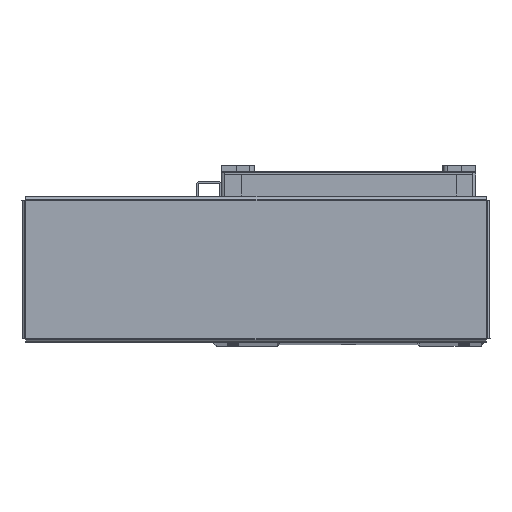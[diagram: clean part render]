
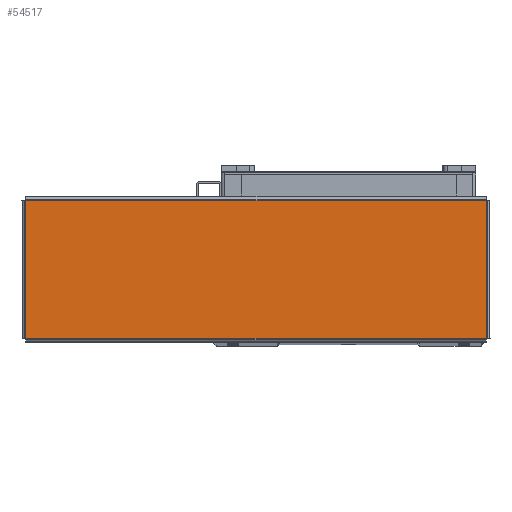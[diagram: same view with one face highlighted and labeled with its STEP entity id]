
A CAD part, top view. The second image highlights one B-rep face of the part: STEP entity #54517.
In plain terms, the highlighted planar face has unit normal (0, 0, 1) as drawn and (0, -1, 0) by its records, which use the part's own axes.
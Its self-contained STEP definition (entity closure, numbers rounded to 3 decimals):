
#4461 = CARTESIAN_POINT ( 'NONE',  ( 139.293, -1.5, 41.763 ) ) ;
#4523 = DIRECTION ( 'NONE',  ( -1., 0., 0. ) ) ;
#4586 = CARTESIAN_POINT ( 'NONE',  ( -139.263, -1.5, 41.793 ) ) ;
#4607 = DIRECTION ( 'NONE',  ( 0., 0., -1. ) ) ;
#4734 = CARTESIAN_POINT ( 'NONE',  ( 139.263, -1.5, -41.793 ) ) ;
#4735 = DIRECTION ( 'NONE',  ( 0., 0., 1. ) ) ;
#4775 = CARTESIAN_POINT ( 'NONE',  ( -139.293, -1.5, -41.763 ) ) ;
#4776 = DIRECTION ( 'NONE',  ( 1., 0., 0. ) ) ;
#5403 = EDGE_LOOP ( 'NONE', ( #52688, #52612, #52655, #52681 ) ) ;
#18427 = EDGE_CURVE ( 'NONE', #49079, #49162, #31406, .T. ) ;
#18453 = EDGE_CURVE ( 'NONE', #49162, #49109, #31458, .T. ) ;
#18499 = EDGE_CURVE ( 'NONE', #49155, #49079, #31606, .T. ) ;
#18520 = EDGE_CURVE ( 'NONE', #49109, #49155, #31578, .T. ) ;
#24078 = CARTESIAN_POINT ( 'NONE',  ( 139.263, -1.5, 41.763 ) ) ;
#24210 = CARTESIAN_POINT ( 'NONE',  ( -139.263, -1.5, -41.763 ) ) ;
#24236 = CARTESIAN_POINT ( 'NONE',  ( -139.263, -1.5, 41.763 ) ) ;
#24342 = CARTESIAN_POINT ( 'NONE',  ( 139.263, -1.5, -41.763 ) ) ;
#31362 = VECTOR ( 'NONE', #4523, 1000. ) ;
#31406 = LINE ( 'NONE', #4461, #31362 ) ;
#31458 = LINE ( 'NONE', #4586, #31507 ) ;
#31507 = VECTOR ( 'NONE', #4607, 1000. ) ;
#31578 = LINE ( 'NONE', #4775, #31692 ) ;
#31606 = LINE ( 'NONE', #4734, #31647 ) ;
#31647 = VECTOR ( 'NONE', #4735, 1000. ) ;
#31692 = VECTOR ( 'NONE', #4776, 1000. ) ;
#35824 = DIRECTION ( 'NONE',  ( 0., 1., 0. ) ) ;
#35837 = PLANE ( 'NONE',  #35948 ) ;
#35852 = DIRECTION ( 'NONE',  ( 0., 0., 1. ) ) ;
#35860 = CARTESIAN_POINT ( 'NONE',  ( 0., -1.5, 0. ) ) ;
#35948 = AXIS2_PLACEMENT_3D ( 'NONE', #35860, #35824, #35852 ) ;
#41179 = FACE_OUTER_BOUND ( 'NONE', #5403, .T. ) ;
#49079 = VERTEX_POINT ( 'NONE', #24078 ) ;
#49109 = VERTEX_POINT ( 'NONE', #24210 ) ;
#49155 = VERTEX_POINT ( 'NONE', #24342 ) ;
#49162 = VERTEX_POINT ( 'NONE', #24236 ) ;
#52612 = ORIENTED_EDGE ( 'NONE', *, *, #18427, .T. ) ;
#52655 = ORIENTED_EDGE ( 'NONE', *, *, #18453, .T. ) ;
#52681 = ORIENTED_EDGE ( 'NONE', *, *, #18520, .T. ) ;
#52688 = ORIENTED_EDGE ( 'NONE', *, *, #18499, .T. ) ;
#54517 = ADVANCED_FACE ( 'NONE', ( #41179 ), #35837, .F. ) ;
